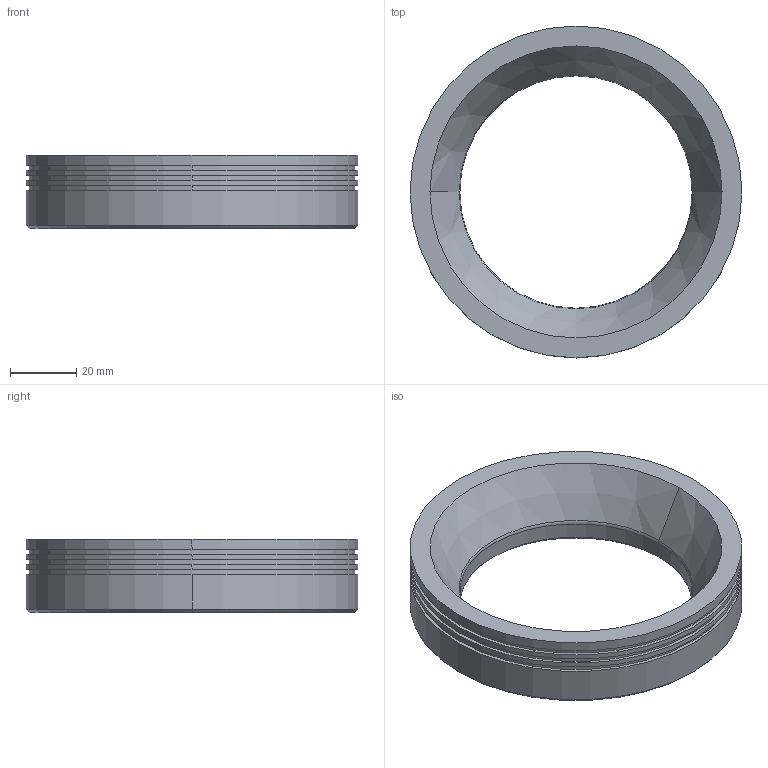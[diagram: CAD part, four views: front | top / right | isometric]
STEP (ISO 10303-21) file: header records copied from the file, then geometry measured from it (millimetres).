
FILE_DESCRIPTION((''),'2;1');
FILE_NAME('DRL7030','2020-03-28T',('ASUS'),(''),'PRO/ENGINEER BY PARAMETRIC TECHNOLOGY CORPORATION, 2008380','PRO/ENGINEER BY PARAMETRIC TECHNOLOGY CORPORATION, 2008380','');
FILE_SCHEMA(('CONFIG_CONTROL_DESIGN'));
Length unit declared in the file: millimetre
Products named in the file (1): DRL7030
Bounding box: 100 x 100 x 22 mm (x, y, z)
Volume: 69538.3 mm3; surface area: 20529.9 mm2
Topology: 1 solids, 5 shells, 68 faces, 152 edges, 92 vertices
Faces by surface type: cylinder 32, cone 22, plane 12, torus 2
Entity records: 1901 total; most frequent: DIRECTION 372, CARTESIAN_POINT 305, ORIENTED_EDGE 272, AXIS2_PLACEMENT_3D 159, EDGE_CURVE 144, VERTEX_POINT 92, CIRCLE 90, EDGE_LOOP 84
